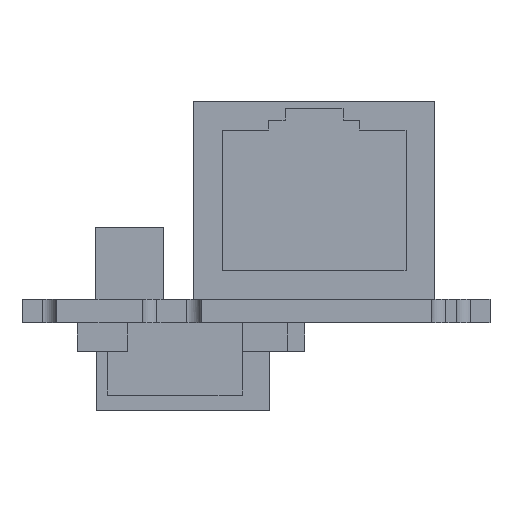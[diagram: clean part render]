
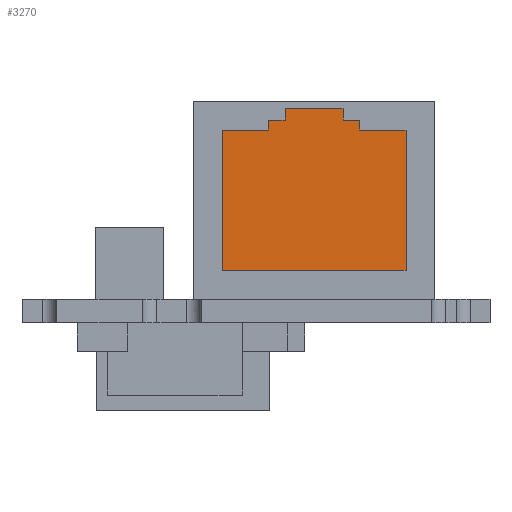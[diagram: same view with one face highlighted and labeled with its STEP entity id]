
A CAD part, left-side view. The second image highlights one B-rep face of the part: STEP entity #3270.
In plain terms, the highlighted planar face has unit normal (-1, 0, 0).
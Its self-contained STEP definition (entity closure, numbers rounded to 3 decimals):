
#48 = VERTEX_POINT ( 'NONE', #1927 ) ;
#83 = AXIS2_PLACEMENT_3D ( 'NONE', #3254, #2945, #1674 ) ;
#102 = PLANE ( 'NONE',  #83 ) ;
#115 = CARTESIAN_POINT ( 'NONE',  ( -35.8, 8.003, 13.987 ) ) ;
#137 = EDGE_CURVE ( 'NONE', #3332, #1773, #1005, .T. ) ;
#142 = ORIENTED_EDGE ( 'NONE', *, *, #862, .F. ) ;
#231 = LINE ( 'NONE', #742, #2312 ) ;
#252 = EDGE_LOOP ( 'NONE', ( #941, #470, #142, #304, #1555, #2633, #1461, #1514, #2857, #2179, #857, #281 ) ) ;
#266 = VECTOR ( 'NONE', #1113, 1000. ) ;
#281 = ORIENTED_EDGE ( 'NONE', *, *, #1883, .T. ) ;
#304 = ORIENTED_EDGE ( 'NONE', *, *, #1130, .F. ) ;
#309 = DIRECTION ( 'NONE',  ( 0., 0., -1. ) ) ;
#331 = DIRECTION ( 'NONE',  ( 0., 0., -1. ) ) ;
#396 = CARTESIAN_POINT ( 'NONE',  ( -35.8, 14.303, 13.987 ) ) ;
#443 = LINE ( 'NONE', #2162, #482 ) ;
#470 = ORIENTED_EDGE ( 'NONE', *, *, #1389, .F. ) ;
#482 = VECTOR ( 'NONE', #2932, 1000. ) ;
#569 = CARTESIAN_POINT ( 'NONE',  ( -35.8, 14.303, 13.987 ) ) ;
#607 = LINE ( 'NONE', #2920, #1223 ) ;
#627 = DIRECTION ( 'NONE',  ( 0., 0., -1. ) ) ;
#742 = CARTESIAN_POINT ( 'NONE',  ( -35.8, 17.503, 3.6 ) ) ;
#762 = VERTEX_POINT ( 'NONE', #2784 ) ;
#794 = VECTOR ( 'NONE', #1119, 1000. ) ;
#819 = VERTEX_POINT ( 'NONE', #1508 ) ;
#826 = EDGE_CURVE ( 'NONE', #1302, #762, #231, .T. ) ;
#857 = ORIENTED_EDGE ( 'NONE', *, *, #826, .T. ) ;
#862 = EDGE_CURVE ( 'NONE', #2693, #48, #1604, .T. ) ;
#925 = LINE ( 'NONE', #1385, #1085 ) ;
#941 = ORIENTED_EDGE ( 'NONE', *, *, #2924, .T. ) ;
#1005 = LINE ( 'NONE', #396, #794 ) ;
#1085 = VECTOR ( 'NONE', #331, 1000. ) ;
#1113 = DIRECTION ( 'NONE',  ( 0., 0., 1. ) ) ;
#1119 = DIRECTION ( 'NONE',  ( 0., 0., 1. ) ) ;
#1130 = EDGE_CURVE ( 'NONE', #1935, #2693, #2527, .T. ) ;
#1131 = CARTESIAN_POINT ( 'NONE',  ( -35.8, 9.153, 14.774 ) ) ;
#1143 = LINE ( 'NONE', #1292, #2949 ) ;
#1172 = DIRECTION ( 'NONE',  ( 0., -1., 0. ) ) ;
#1217 = VERTEX_POINT ( 'NONE', #1345 ) ;
#1223 = VECTOR ( 'NONE', #3188, 1000. ) ;
#1284 = VECTOR ( 'NONE', #1172, 1000. ) ;
#1288 = FACE_OUTER_BOUND ( 'NONE', #252, .T. ) ;
#1292 = CARTESIAN_POINT ( 'NONE',  ( -35.8, 4.803, 3.6 ) ) ;
#1302 = VERTEX_POINT ( 'NONE', #2447 ) ;
#1345 = CARTESIAN_POINT ( 'NONE',  ( -35.8, 13.153, 14.774 ) ) ;
#1358 = VECTOR ( 'NONE', #2562, 1000. ) ;
#1385 = CARTESIAN_POINT ( 'NONE',  ( -35.8, 17.503, 13.3 ) ) ;
#1389 = EDGE_CURVE ( 'NONE', #48, #2049, #2722, .T. ) ;
#1461 = ORIENTED_EDGE ( 'NONE', *, *, #2715, .F. ) ;
#1501 = VERTEX_POINT ( 'NONE', #2770 ) ;
#1508 = CARTESIAN_POINT ( 'NONE',  ( -35.8, 17.503, 13.3 ) ) ;
#1514 = ORIENTED_EDGE ( 'NONE', *, *, #137, .F. ) ;
#1520 = EDGE_CURVE ( 'NONE', #1217, #1935, #3387, .T. ) ;
#1555 = ORIENTED_EDGE ( 'NONE', *, *, #1520, .F. ) ;
#1588 = VECTOR ( 'NONE', #2339, 1000. ) ;
#1593 = CARTESIAN_POINT ( 'NONE',  ( -35.8, 13.153, 14.774 ) ) ;
#1604 = LINE ( 'NONE', #1787, #1358 ) ;
#1642 = VERTEX_POINT ( 'NONE', #2134 ) ;
#1674 = DIRECTION ( 'NONE',  ( 0., 0., 1. ) ) ;
#1702 = EDGE_CURVE ( 'NONE', #1642, #1217, #1933, .T. ) ;
#1773 = VERTEX_POINT ( 'NONE', #569 ) ;
#1787 = CARTESIAN_POINT ( 'NONE',  ( -35.8, 9.153, 13.987 ) ) ;
#1877 = CARTESIAN_POINT ( 'NONE',  ( -35.8, 9.153, 14.774 ) ) ;
#1883 = EDGE_CURVE ( 'NONE', #762, #1501, #1143, .T. ) ;
#1927 = CARTESIAN_POINT ( 'NONE',  ( -35.8, 8.003, 13.987 ) ) ;
#1933 = LINE ( 'NONE', #1593, #266 ) ;
#1935 = VERTEX_POINT ( 'NONE', #1131 ) ;
#2008 = CARTESIAN_POINT ( 'NONE',  ( -35.8, 13.153, 14.774 ) ) ;
#2049 = VERTEX_POINT ( 'NONE', #2738 ) ;
#2114 = VECTOR ( 'NONE', #627, 1000. ) ;
#2134 = CARTESIAN_POINT ( 'NONE',  ( -35.8, 13.153, 13.987 ) ) ;
#2162 = CARTESIAN_POINT ( 'NONE',  ( -35.8, 4.803, 13.3 ) ) ;
#2179 = ORIENTED_EDGE ( 'NONE', *, *, #2981, .T. ) ;
#2273 = VECTOR ( 'NONE', #309, 1000. ) ;
#2312 = VECTOR ( 'NONE', #3364, 1000. ) ;
#2339 = DIRECTION ( 'NONE',  ( 0., -1., 0. ) ) ;
#2359 = DIRECTION ( 'NONE',  ( 0., 0., 1. ) ) ;
#2421 = LINE ( 'NONE', #2821, #1588 ) ;
#2447 = CARTESIAN_POINT ( 'NONE',  ( -35.8, 17.503, 3.6 ) ) ;
#2527 = LINE ( 'NONE', #1877, #2273 ) ;
#2562 = DIRECTION ( 'NONE',  ( 0., -1., 0. ) ) ;
#2633 = ORIENTED_EDGE ( 'NONE', *, *, #1702, .F. ) ;
#2693 = VERTEX_POINT ( 'NONE', #3350 ) ;
#2715 = EDGE_CURVE ( 'NONE', #1773, #1642, #2421, .T. ) ;
#2722 = LINE ( 'NONE', #115, #2114 ) ;
#2738 = CARTESIAN_POINT ( 'NONE',  ( -35.8, 8.003, 13.3 ) ) ;
#2770 = CARTESIAN_POINT ( 'NONE',  ( -35.8, 4.803, 13.3 ) ) ;
#2784 = CARTESIAN_POINT ( 'NONE',  ( -35.8, 4.803, 3.6 ) ) ;
#2821 = CARTESIAN_POINT ( 'NONE',  ( -35.8, 14.303, 13.987 ) ) ;
#2857 = ORIENTED_EDGE ( 'NONE', *, *, #2976, .T. ) ;
#2920 = CARTESIAN_POINT ( 'NONE',  ( -35.8, 4.803, 13.3 ) ) ;
#2924 = EDGE_CURVE ( 'NONE', #1501, #2049, #607, .T. ) ;
#2932 = DIRECTION ( 'NONE',  ( 0., 1., 0. ) ) ;
#2945 = DIRECTION ( 'NONE',  ( -1., 0., 0. ) ) ;
#2949 = VECTOR ( 'NONE', #2359, 1000. ) ;
#2976 = EDGE_CURVE ( 'NONE', #3332, #819, #443, .T. ) ;
#2981 = EDGE_CURVE ( 'NONE', #819, #1302, #925, .T. ) ;
#3188 = DIRECTION ( 'NONE',  ( 0., 1., 0. ) ) ;
#3254 = CARTESIAN_POINT ( 'NONE',  ( -35.8, 17.503, 3.6 ) ) ;
#3270 = ADVANCED_FACE ( 'NONE', ( #1288 ), #102, .T. ) ;
#3303 = CARTESIAN_POINT ( 'NONE',  ( -35.8, 14.303, 13.3 ) ) ;
#3332 = VERTEX_POINT ( 'NONE', #3303 ) ;
#3350 = CARTESIAN_POINT ( 'NONE',  ( -35.8, 9.153, 13.987 ) ) ;
#3364 = DIRECTION ( 'NONE',  ( 0., -1., 0. ) ) ;
#3387 = LINE ( 'NONE', #2008, #1284 ) ;
